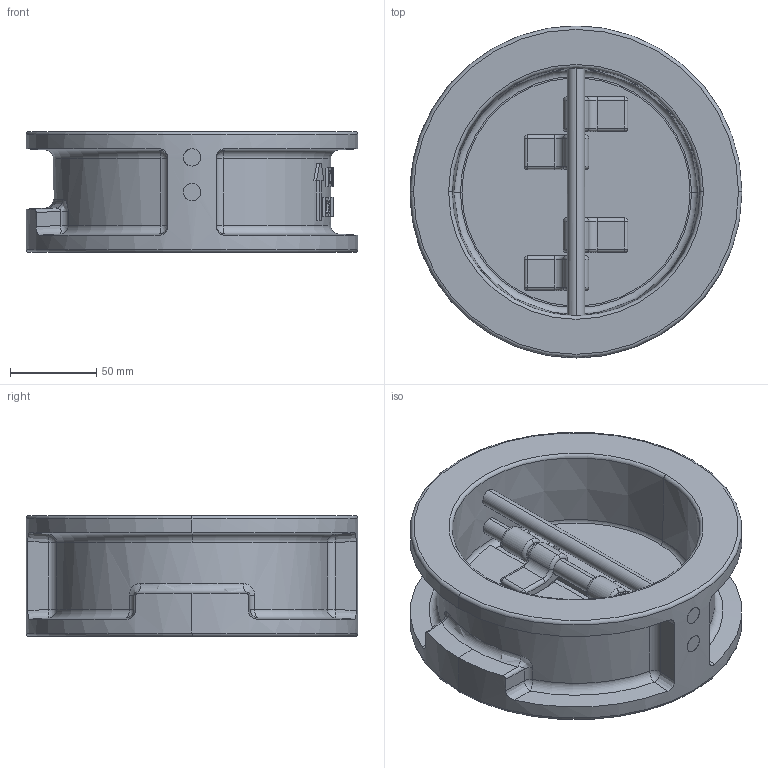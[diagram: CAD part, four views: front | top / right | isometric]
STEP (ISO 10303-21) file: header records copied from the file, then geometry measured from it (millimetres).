
FILE_DESCRIPTION (( 'STEP AP203' ), '1' );
FILE_NAME ('润泽DN125对夹双板止回阀PN16.STEP', '2026-08-19T02:44:16', ( 'Windows 用户' ), ( 'Microsoft' ), 'SwSTEP 2.0', 'SolidWorks 2022', '' );
FILE_SCHEMA (( 'CONFIG_CONTROL_DESIGN' ));
Length unit declared in the file: millimetre
Products named in the file (1): 润泽DN125对夹双板止回阀PN16
Bounding box: 192 x 192 x 70 mm (x, y, z)
Volume: 777523.3 mm3; surface area: 158437.8 mm2
Topology: 1 solids, 1 shells, 379 faces, 943 edges, 573 vertices
Faces by surface type: plane 107, bspline 100, cylinder 92, torus 46, sphere 18, cone 16
Entity records: 14808 total; most frequent: CARTESIAN_POINT 6445, ORIENTED_EDGE 1870, DIRECTION 1530, EDGE_CURVE 935, AXIS2_PLACEMENT_3D 595, VERTEX_POINT 573, EDGE_LOOP 406, ADVANCED_FACE 379
